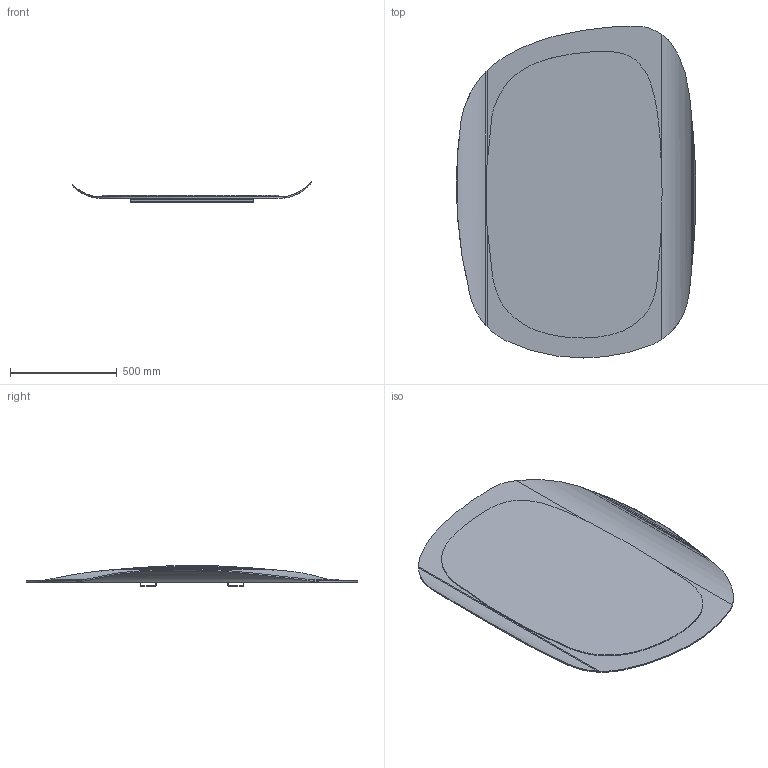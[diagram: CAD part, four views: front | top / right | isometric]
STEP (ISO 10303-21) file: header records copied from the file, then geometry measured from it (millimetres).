
FILE_DESCRIPTION (( 'STEP AP203' ), '1' );
FILE_NAME ('GAL01_Gallery_112x160.STEP', '2024-08-02T09:03:09', ( '' ), ( '' ), 'SwSTEP 2.0', 'SolidWorks 2022', '' );
FILE_SCHEMA (( 'CONFIG_CONTROL_DESIGN' ));
Length unit declared in the file: millimetre
Products named in the file (3): GAL01_A-00-SPECCHIO GALLERY 112x160; GAL01_Gallery_112x160; GALXX-00-LAMIERA ANCORAGGIO PIEGATA
Assembly tree (2 placements, depth 2):
  GAL01_Gallery_112x160
    GALXX-00-LAMIERA ANCORAGGIO PIEGATA
    GAL01_A-00-SPECCHIO GALLERY 112x160
Bounding box: 1120.16 x 1555.49 x 95.12 mm (x, y, z)
Volume: 14134243.3 mm3; surface area: 5803634.4 mm2
Topology: 3 solids, 3 shells, 207 faces, 523 edges, 314 vertices
Faces by surface type: plane 117, cylinder 90
Entity records: 6584 total; most frequent: CARTESIAN_POINT 1327, ORIENTED_EDGE 1046, DIRECTION 1039, EDGE_CURVE 523, AXIS2_PLACEMENT_3D 354, LINE 331, VECTOR 331, VERTEX_POINT 314
